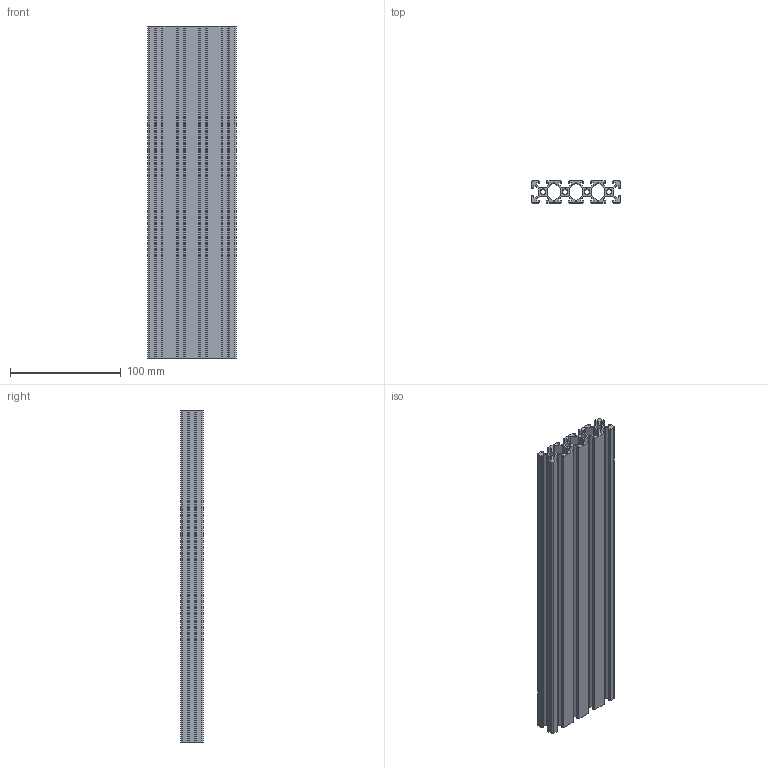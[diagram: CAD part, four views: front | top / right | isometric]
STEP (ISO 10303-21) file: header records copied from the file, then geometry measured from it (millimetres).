
FILE_DESCRIPTION (( 'STEP AP203' ), '1' );
FILE_NAME ('6-CE-2080-6.STEP', '2015-07-07T02:37:43', ( '' ), ( '' ), 'SwSTEP 2.0', 'SolidWorks 2013', '' );
FILE_SCHEMA (( 'CONFIG_CONTROL_DESIGN' ));
Length unit declared in the file: millimetre
Products named in the file (1): 6-CE-2080-6
Bounding box: 80 x 20 x 300 mm (x, y, z)
Volume: 169592.3 mm3; surface area: 175851.3 mm2
Topology: 1 solids, 1 shells, 214 faces, 636 edges, 424 vertices
Faces by surface type: plane 164, cylinder 50
Entity records: 7225 total; most frequent: CARTESIAN_POINT 1275, ORIENTED_EDGE 1272, DIRECTION 1166, EDGE_CURVE 636, VECTOR 536, LINE 536, VERTEX_POINT 424, AXIS2_PLACEMENT_3D 315
